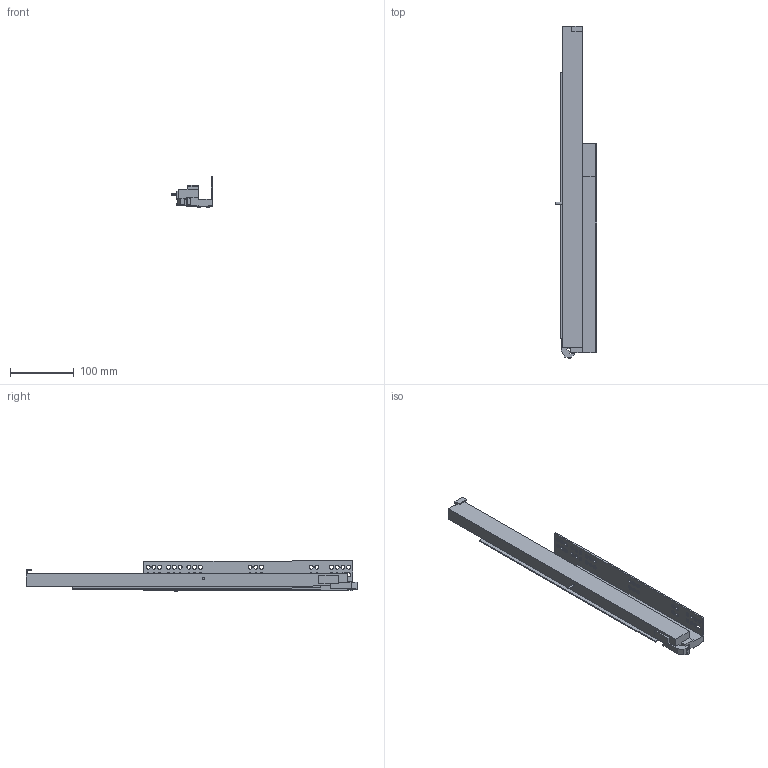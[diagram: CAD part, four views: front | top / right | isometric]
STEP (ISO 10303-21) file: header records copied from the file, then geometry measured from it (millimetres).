
FILE_DESCRIPTION (( 'STEP AP203' ), '1' );
FILE_NAME ('IMOS_Dynapro_Tipmatic_D51_NL_0_RE.STEP', '2013-03-22T12:08:00', ( 'Grass GmbH' ), ( 'Grass GmbH' ), 'SwSTEP 2.0', 'SolidWorks 2012', '' );
FILE_SCHEMA (( 'CONFIG_CONTROL_DESIGN' ));
Length unit declared in the file: millimetre
Products named in the file (1): IMOS_Dynapro_Tipmatic_D51_NL_0_RE
Bounding box: 65.92 x 521.55 x 47.53 mm (x, y, z)
Volume: 471084.4 mm3; surface area: 110334 mm2
Topology: 1 solids, 1 shells, 173 faces, 497 edges, 331 vertices
Faces by surface type: plane 96, cylinder 77
Entity records: 5914 total; most frequent: CARTESIAN_POINT 1002, DIRECTION 999, ORIENTED_EDGE 994, EDGE_CURVE 497, VECTOR 343, LINE 343, VERTEX_POINT 331, AXIS2_PLACEMENT_3D 328
